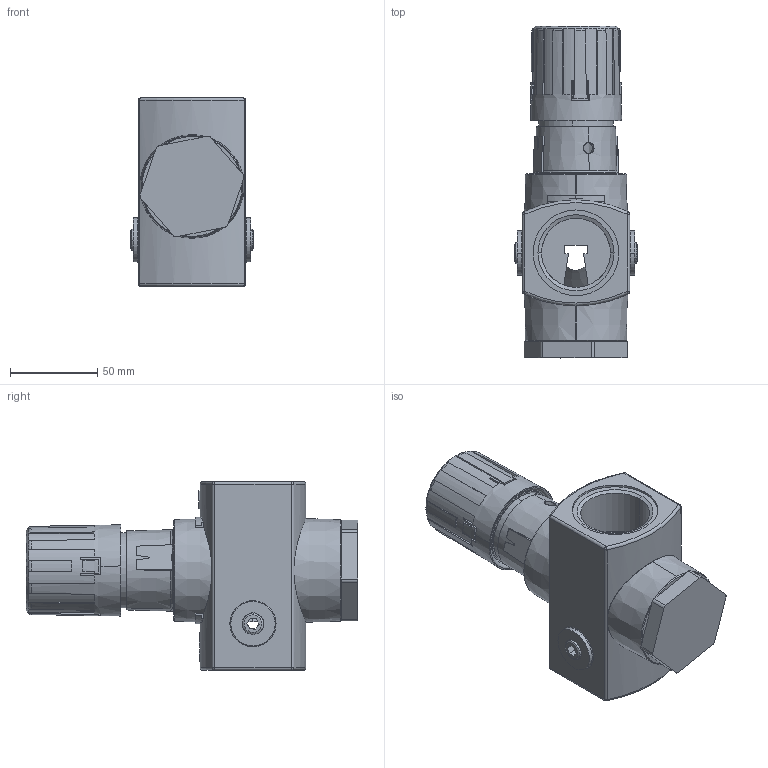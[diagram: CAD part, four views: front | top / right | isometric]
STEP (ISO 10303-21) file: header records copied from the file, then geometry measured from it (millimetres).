
FILE_DESCRIPTION(/* description */ (''),/* implementation_level */ '2;1');
FILE_NAME(/* name */ 'SR17-A00-RNCC.step',/* time_stamp */ '2024-02-14T13:26:16+01:00',/* author */ (''),/* organization */ (''),/* preprocessor_version */ 'ST-DEVELOPER v20',/* originating_system */ 'Autodesk Translation Framework v12.14.0.127',/* authorisation */ '');
FILE_SCHEMA (('AUTOMOTIVE_DESIGN { 1 0 10303 214 3 1 1 }'));
Products named in the file (2): (Nicht gespeichert); SR17-A00-RNCC
Assembly tree (1 placements, depth 2):
  (Nicht gespeichert)
    SR17-A00-RNCC
Bounding box: 70.05 x 189.87 x 107.95 mm (x, y, z)
Surface area: 78355.6 mm2 (no closed solid volume)
Topology: 0 solids, 607 shells, 607 faces, 3295 edges, 3287 vertices
Faces by surface type: plane 316, bspline 129, cylinder 76, cone 50, torus 28, sphere 8
Entity records: 55333 total; most frequent: CARTESIAN_POINT 30481, DIRECTION 4182, VERTEX_POINT 3287, EDGE_CURVE 3287, ORIENTED_EDGE 3287, LINE 1962, VECTOR 1962, AXIS2_PLACEMENT_3D 1110
